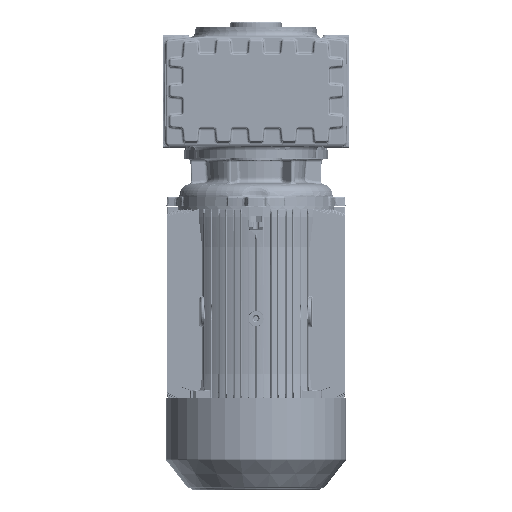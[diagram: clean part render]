
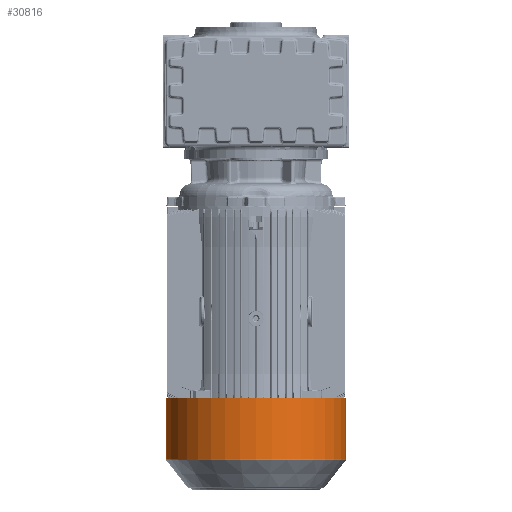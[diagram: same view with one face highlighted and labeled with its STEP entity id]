
A CAD part, front view. The second image highlights one B-rep face of the part: STEP entity #30816.
In plain terms, the highlighted cylindrical face has radius 157.5 mm (diameter 315 mm), a partial arc.
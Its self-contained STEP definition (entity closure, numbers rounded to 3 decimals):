
#3704 = AXIS2_PLACEMENT_3D ( 'NONE', #302236, #96654, #378261 ) ;
#12601 = FACE_OUTER_BOUND ( 'NONE', #151942, .T. ) ;
#16436 = AXIS2_PLACEMENT_3D ( 'NONE', #287910, #278797, #144791 ) ;
#30816 = ADVANCED_FACE ( 'NONE', ( #12601 ), #402516, .T. ) ;
#32178 = LINE ( 'NONE', #202952, #183845 ) ;
#59676 = VERTEX_POINT ( 'NONE', #133173 ) ;
#60913 = EDGE_CURVE ( 'NONE', #59676, #245429, #32178, .T. ) ;
#84635 = CIRCLE ( 'NONE', #3704, 157.5 ) ;
#96654 = DIRECTION ( 'NONE',  ( 1., 0., 0. ) ) ;
#110189 = EDGE_CURVE ( 'NONE', #454274, #59676, #208152, .T. ) ;
#133173 = CARTESIAN_POINT ( 'NONE',  ( 620.605, 0., 157.5 ) ) ;
#144791 = DIRECTION ( 'NONE',  ( 0., 0., 1. ) ) ;
#145345 = ORIENTED_EDGE ( 'NONE', *, *, #357052, .F. ) ;
#151942 = EDGE_LOOP ( 'NONE', ( #145345, #413806, #344226, #423286 ) ) ;
#157824 = DIRECTION ( 'NONE',  ( 0., 0., 1. ) ) ;
#183845 = VECTOR ( 'NONE', #378367, 1000. ) ;
#192505 = DIRECTION ( 'NONE',  ( -1., 0., 0. ) ) ;
#202952 = CARTESIAN_POINT ( 'NONE',  ( 671., 0., 157.5 ) ) ;
#208152 = CIRCLE ( 'NONE', #16436, 157.5 ) ;
#225284 = DIRECTION ( 'NONE',  ( -1., 0., 0. ) ) ;
#245429 = VERTEX_POINT ( 'NONE', #450507 ) ;
#264334 = CARTESIAN_POINT ( 'NONE',  ( 620.605, 0., -157.5 ) ) ;
#278797 = DIRECTION ( 'NONE',  ( -1., 0., 0. ) ) ;
#287910 = CARTESIAN_POINT ( 'NONE',  ( 620.605, 0., 0. ) ) ;
#302236 = CARTESIAN_POINT ( 'NONE',  ( 514.5, 0., 0. ) ) ;
#333552 = AXIS2_PLACEMENT_3D ( 'NONE', #363377, #192505, #157824 ) ;
#344226 = ORIENTED_EDGE ( 'NONE', *, *, #60913, .T. ) ;
#357052 = EDGE_CURVE ( 'NONE', #454274, #438137, #433101, .T. ) ;
#359316 = CARTESIAN_POINT ( 'NONE',  ( 671., 0., -157.5 ) ) ;
#363377 = CARTESIAN_POINT ( 'NONE',  ( 671., 0., 0. ) ) ;
#377488 = EDGE_CURVE ( 'NONE', #245429, #438137, #84635, .T. ) ;
#378261 = DIRECTION ( 'NONE',  ( 0., 0., 1. ) ) ;
#378367 = DIRECTION ( 'NONE',  ( -1., 0., 0. ) ) ;
#402516 = CYLINDRICAL_SURFACE ( 'NONE', #333552, 157.5 ) ;
#413806 = ORIENTED_EDGE ( 'NONE', *, *, #110189, .T. ) ;
#423286 = ORIENTED_EDGE ( 'NONE', *, *, #377488, .T. ) ;
#427261 = CARTESIAN_POINT ( 'NONE',  ( 514.5, 0., -157.5 ) ) ;
#428815 = VECTOR ( 'NONE', #225284, 1000. ) ;
#433101 = LINE ( 'NONE', #359316, #428815 ) ;
#438137 = VERTEX_POINT ( 'NONE', #427261 ) ;
#450507 = CARTESIAN_POINT ( 'NONE',  ( 514.5, 0., 157.5 ) ) ;
#454274 = VERTEX_POINT ( 'NONE', #264334 ) ;
